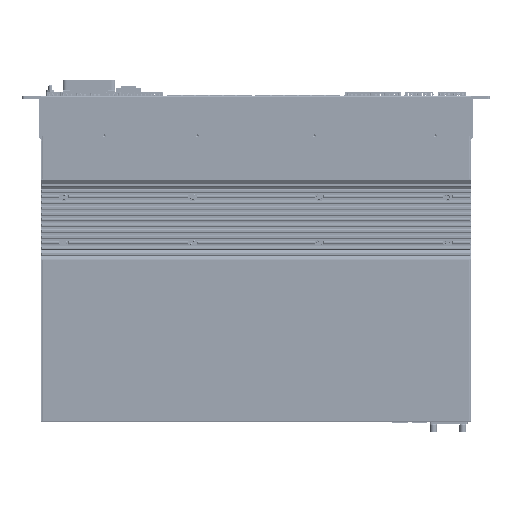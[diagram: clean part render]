
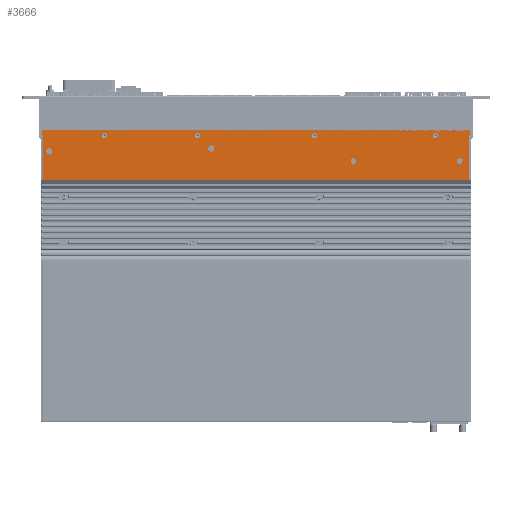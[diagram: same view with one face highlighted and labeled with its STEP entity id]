
A CAD part, front view. The second image highlights one B-rep face of the part: STEP entity #3666.
In plain terms, the highlighted planar face has unit normal (0, -1, 0).
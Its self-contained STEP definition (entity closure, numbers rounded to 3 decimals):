
#386=CARTESIAN_POINT('',(-219.8,-21.9,-84.911));
#387=VERTEX_POINT('',#386);
#395=CARTESIAN_POINT('',(-219.8,-21.9,-84.811));
#396=VERTEX_POINT('',#395);
#397=CARTESIAN_POINT('',(-219.8,-21.9,-84.911));
#398=DIRECTION('',(-0.,-0.,1.));
#399=VECTOR('',#398,0.1);
#400=LINE('',#397,#399);
#401=EDGE_CURVE('',#387,#396,#400,.T.);
#3374=CARTESIAN_POINT('',(219.8,-21.9,-84.811));
#3375=VERTEX_POINT('',#3374);
#3382=CARTESIAN_POINT('',(219.8,-21.9,-84.911));
#3383=VERTEX_POINT('',#3382);
#3384=CARTESIAN_POINT('',(219.8,-21.9,-84.811));
#3385=DIRECTION('',(-0.,-0.,-1.));
#3386=VECTOR('',#3385,0.1);
#3387=LINE('',#3384,#3386);
#3388=EDGE_CURVE('',#3375,#3383,#3387,.T.);
#3409=CARTESIAN_POINT('',(-219.8,-21.9,-84.911));
#3410=DIRECTION('',(1.,0.,-0.));
#3411=VECTOR('',#3410,439.6);
#3412=LINE('',#3409,#3411);
#3413=EDGE_CURVE('',#387,#3383,#3412,.T.);
#3427=CARTESIAN_POINT('',(-218.6,-21.9,-84.811));
#3428=VERTEX_POINT('',#3427);
#3442=CARTESIAN_POINT('',(-219.8,-21.9,-84.811));
#3443=DIRECTION('',(1.,-0.,-0.));
#3444=VECTOR('',#3443,1.2);
#3445=LINE('',#3442,#3444);
#3446=EDGE_CURVE('',#396,#3428,#3445,.T.);
#3451=CARTESIAN_POINT('',(0.,-21.9,0.));
#3452=DIRECTION('',(0.,-1.,0.));
#3453=DIRECTION('',(0.,0.,-1.));
#3454=AXIS2_PLACEMENT_3D('',#3451,#3452,#3453);
#3455=PLANE('',#3454);
#3456=CARTESIAN_POINT('',(-219.8,-21.9,-40.));
#3457=VERTEX_POINT('',#3456);
#3458=CARTESIAN_POINT('',(-219.8,-21.9,-35.1));
#3459=VERTEX_POINT('',#3458);
#3460=CARTESIAN_POINT('',(-219.8,-21.9,-40.));
#3461=DIRECTION('',(-0.,-0.,1.));
#3462=VECTOR('',#3461,4.9);
#3463=LINE('',#3460,#3462);
#3464=EDGE_CURVE('',#3457,#3459,#3463,.T.);
#3465=ORIENTED_EDGE('',*,*,#3464,.F.);
#3466=CARTESIAN_POINT('',(-218.6,-21.9,-40.));
#3467=VERTEX_POINT('',#3466);
#3468=CARTESIAN_POINT('',(-219.8,-21.9,-40.));
#3469=DIRECTION('',(1.,0.,-0.));
#3470=VECTOR('',#3469,1.2);
#3471=LINE('',#3468,#3470);
#3472=EDGE_CURVE('',#3457,#3467,#3471,.T.);
#3473=ORIENTED_EDGE('',*,*,#3472,.T.);
#3474=CARTESIAN_POINT('',(-218.6,-21.9,-40.));
#3475=DIRECTION('',(0.,0.,-1.));
#3476=VECTOR('',#3475,44.811);
#3477=LINE('',#3474,#3476);
#3478=EDGE_CURVE('',#3467,#3428,#3477,.T.);
#3479=ORIENTED_EDGE('',*,*,#3478,.T.);
#3480=ORIENTED_EDGE('',*,*,#3446,.F.);
#3481=ORIENTED_EDGE('',*,*,#401,.F.);
#3482=ORIENTED_EDGE('',*,*,#3413,.T.);
#3483=ORIENTED_EDGE('',*,*,#3388,.F.);
#3484=CARTESIAN_POINT('',(218.6,-21.9,-84.811));
#3485=VERTEX_POINT('',#3484);
#3486=CARTESIAN_POINT('',(219.8,-21.9,-84.811));
#3487=DIRECTION('',(-1.,-0.,0.));
#3488=VECTOR('',#3487,1.2);
#3489=LINE('',#3486,#3488);
#3490=EDGE_CURVE('',#3375,#3485,#3489,.T.);
#3491=ORIENTED_EDGE('',*,*,#3490,.T.);
#3492=CARTESIAN_POINT('',(218.6,-21.9,-40.));
#3493=VERTEX_POINT('',#3492);
#3494=CARTESIAN_POINT('',(218.6,-21.9,-84.811));
#3495=DIRECTION('',(-0.,-0.,1.));
#3496=VECTOR('',#3495,44.811);
#3497=LINE('',#3494,#3496);
#3498=EDGE_CURVE('',#3485,#3493,#3497,.T.);
#3499=ORIENTED_EDGE('',*,*,#3498,.T.);
#3500=CARTESIAN_POINT('',(219.8,-21.9,-40.));
#3501=VERTEX_POINT('',#3500);
#3502=CARTESIAN_POINT('',(219.8,-21.9,-40.));
#3503=DIRECTION('',(-1.,-0.,0.));
#3504=VECTOR('',#3503,1.2);
#3505=LINE('',#3502,#3504);
#3506=EDGE_CURVE('',#3501,#3493,#3505,.T.);
#3507=ORIENTED_EDGE('',*,*,#3506,.F.);
#3508=CARTESIAN_POINT('',(219.8,-21.9,-35.1));
#3509=VERTEX_POINT('',#3508);
#3510=CARTESIAN_POINT('',(219.8,-21.9,-35.1));
#3511=DIRECTION('',(-0.,-0.,-1.));
#3512=VECTOR('',#3511,4.9);
#3513=LINE('',#3510,#3512);
#3514=EDGE_CURVE('',#3509,#3501,#3513,.T.);
#3515=ORIENTED_EDGE('',*,*,#3514,.F.);
#3516=CARTESIAN_POINT('',(218.8,-21.9,-34.1));
#3517=VERTEX_POINT('',#3516);
#3518=CARTESIAN_POINT('',(218.8,-21.9,-35.1));
#3519=DIRECTION('',(-0.,1.,-0.));
#3520=DIRECTION('',(0.,0.,-1.));
#3521=AXIS2_PLACEMENT_3D('',#3518,#3519,#3520);
#3522=CIRCLE('',#3521,1.);
#3523=EDGE_CURVE('',#3517,#3509,#3522,.T.);
#3524=ORIENTED_EDGE('',*,*,#3523,.F.);
#3525=CARTESIAN_POINT('',(-218.8,-21.9,-34.1));
#3526=VERTEX_POINT('',#3525);
#3527=CARTESIAN_POINT('',(218.8,-21.9,-34.1));
#3528=DIRECTION('',(-1.,-0.,0.));
#3529=VECTOR('',#3528,437.6);
#3530=LINE('',#3527,#3529);
#3531=EDGE_CURVE('',#3517,#3526,#3530,.T.);
#3532=ORIENTED_EDGE('',*,*,#3531,.T.);
#3533=CARTESIAN_POINT('',(-218.8,-21.9,-35.1));
#3534=DIRECTION('',(-0.,1.,-0.));
#3535=DIRECTION('',(0.,0.,-1.));
#3536=AXIS2_PLACEMENT_3D('',#3533,#3534,#3535);
#3537=CIRCLE('',#3536,1.);
#3538=EDGE_CURVE('',#3459,#3526,#3537,.T.);
#3539=ORIENTED_EDGE('',*,*,#3538,.F.);
#3540=EDGE_LOOP('',(#3465,#3473,#3479,#3480,#3481,#3482,#3483,#3491,#3499,#3507,#3515,#3524,#3532,#3539));
#3541=FACE_BOUND('',#3540,.T.);
#3542=CARTESIAN_POINT('',(60.,-21.9,-42.75));
#3543=VERTEX_POINT('',#3542);
#3544=CARTESIAN_POINT('',(60.,-21.9,-40.));
#3545=DIRECTION('',(0.,-1.,0.));
#3546=DIRECTION('',(0.,0.,-1.));
#3547=AXIS2_PLACEMENT_3D('',#3544,#3545,#3546);
#3548=CIRCLE('',#3547,2.75);
#3549=EDGE_CURVE('',#3543,#3543,#3548,.T.);
#3550=ORIENTED_EDGE('',*,*,#3549,.F.);
#3551=EDGE_LOOP('',(#3550));
#3552=FACE_BOUND('',#3551,.T.);
#3553=CARTESIAN_POINT('',(-60.,-21.9,-42.75));
#3554=VERTEX_POINT('',#3553);
#3555=CARTESIAN_POINT('',(-60.,-21.9,-40.));
#3556=DIRECTION('',(0.,-1.,0.));
#3557=DIRECTION('',(0.,0.,-1.));
#3558=AXIS2_PLACEMENT_3D('',#3555,#3556,#3557);
#3559=CIRCLE('',#3558,2.75);
#3560=EDGE_CURVE('',#3554,#3554,#3559,.T.);
#3561=ORIENTED_EDGE('',*,*,#3560,.F.);
#3562=EDGE_LOOP('',(#3561));
#3563=FACE_BOUND('',#3562,.T.);
#3564=CARTESIAN_POINT('',(-155.5,-21.9,-42.75));
#3565=VERTEX_POINT('',#3564);
#3566=CARTESIAN_POINT('',(-155.5,-21.9,-40.));
#3567=DIRECTION('',(0.,-1.,0.));
#3568=DIRECTION('',(0.,0.,-1.));
#3569=AXIS2_PLACEMENT_3D('',#3566,#3567,#3568);
#3570=CIRCLE('',#3569,2.75);
#3571=EDGE_CURVE('',#3565,#3565,#3570,.T.);
#3572=ORIENTED_EDGE('',*,*,#3571,.F.);
#3573=EDGE_LOOP('',(#3572));
#3574=FACE_BOUND('',#3573,.T.);
#3575=CARTESIAN_POINT('',(-209.3,-21.9,-56.));
#3576=VERTEX_POINT('',#3575);
#3577=CARTESIAN_POINT('',(-212.,-21.9,-53.3));
#3578=VERTEX_POINT('',#3577);
#3579=CARTESIAN_POINT('',(-212.,-21.9,-56.));
#3580=DIRECTION('',(-0.,-1.,-0.));
#3581=DIRECTION('',(0.,-0.,1.));
#3582=AXIS2_PLACEMENT_3D('',#3579,#3580,#3581);
#3583=CIRCLE('',#3582,2.7);
#3584=EDGE_CURVE('',#3576,#3578,#3583,.T.);
#3585=ORIENTED_EDGE('',*,*,#3584,.F.);
#3586=CARTESIAN_POINT('',(-212.,-21.9,-56.));
#3587=DIRECTION('',(-0.,-1.,-0.));
#3588=DIRECTION('',(0.,-0.,1.));
#3589=AXIS2_PLACEMENT_3D('',#3586,#3587,#3588);
#3590=CIRCLE('',#3589,2.7);
#3591=EDGE_CURVE('',#3578,#3576,#3590,.T.);
#3592=ORIENTED_EDGE('',*,*,#3591,.F.);
#3593=EDGE_LOOP('',(#3585,#3592));
#3594=FACE_BOUND('',#3593,.T.);
#3595=CARTESIAN_POINT('',(211.7,-21.9,-66.));
#3596=VERTEX_POINT('',#3595);
#3597=CARTESIAN_POINT('',(209.,-21.9,-63.3));
#3598=VERTEX_POINT('',#3597);
#3599=CARTESIAN_POINT('',(209.,-21.9,-66.));
#3600=DIRECTION('',(-0.,-1.,-0.));
#3601=DIRECTION('',(0.,-0.,1.));
#3602=AXIS2_PLACEMENT_3D('',#3599,#3600,#3601);
#3603=CIRCLE('',#3602,2.7);
#3604=EDGE_CURVE('',#3596,#3598,#3603,.T.);
#3605=ORIENTED_EDGE('',*,*,#3604,.F.);
#3606=CARTESIAN_POINT('',(209.,-21.9,-66.));
#3607=DIRECTION('',(-0.,-1.,-0.));
#3608=DIRECTION('',(0.,-0.,1.));
#3609=AXIS2_PLACEMENT_3D('',#3606,#3607,#3608);
#3610=CIRCLE('',#3609,2.7);
#3611=EDGE_CURVE('',#3598,#3596,#3610,.T.);
#3612=ORIENTED_EDGE('',*,*,#3611,.F.);
#3613=EDGE_LOOP('',(#3605,#3612));
#3614=FACE_BOUND('',#3613,.T.);
#3615=CARTESIAN_POINT('',(102.7,-21.9,-66.));
#3616=VERTEX_POINT('',#3615);
#3617=CARTESIAN_POINT('',(100.,-21.9,-63.3));
#3618=VERTEX_POINT('',#3617);
#3619=CARTESIAN_POINT('',(100.,-21.9,-66.));
#3620=DIRECTION('',(-0.,-1.,-0.));
#3621=DIRECTION('',(0.,-0.,1.));
#3622=AXIS2_PLACEMENT_3D('',#3619,#3620,#3621);
#3623=CIRCLE('',#3622,2.7);
#3624=EDGE_CURVE('',#3616,#3618,#3623,.T.);
#3625=ORIENTED_EDGE('',*,*,#3624,.F.);
#3626=CARTESIAN_POINT('',(100.,-21.9,-66.));
#3627=DIRECTION('',(-0.,-1.,-0.));
#3628=DIRECTION('',(0.,-0.,1.));
#3629=AXIS2_PLACEMENT_3D('',#3626,#3627,#3628);
#3630=CIRCLE('',#3629,2.7);
#3631=EDGE_CURVE('',#3618,#3616,#3630,.T.);
#3632=ORIENTED_EDGE('',*,*,#3631,.F.);
#3633=EDGE_LOOP('',(#3625,#3632));
#3634=FACE_BOUND('',#3633,.T.);
#3635=CARTESIAN_POINT('',(-43.3,-21.9,-53.));
#3636=VERTEX_POINT('',#3635);
#3637=CARTESIAN_POINT('',(-46.,-21.9,-50.3));
#3638=VERTEX_POINT('',#3637);
#3639=CARTESIAN_POINT('',(-46.,-21.9,-53.));
#3640=DIRECTION('',(-0.,-1.,-0.));
#3641=DIRECTION('',(0.,-0.,1.));
#3642=AXIS2_PLACEMENT_3D('',#3639,#3640,#3641);
#3643=CIRCLE('',#3642,2.7);
#3644=EDGE_CURVE('',#3636,#3638,#3643,.T.);
#3645=ORIENTED_EDGE('',*,*,#3644,.F.);
#3646=CARTESIAN_POINT('',(-46.,-21.9,-53.));
#3647=DIRECTION('',(-0.,-1.,-0.));
#3648=DIRECTION('',(0.,-0.,1.));
#3649=AXIS2_PLACEMENT_3D('',#3646,#3647,#3648);
#3650=CIRCLE('',#3649,2.7);
#3651=EDGE_CURVE('',#3638,#3636,#3650,.T.);
#3652=ORIENTED_EDGE('',*,*,#3651,.F.);
#3653=EDGE_LOOP('',(#3645,#3652));
#3654=FACE_BOUND('',#3653,.T.);
#3655=CARTESIAN_POINT('',(184.,-21.9,-42.75));
#3656=VERTEX_POINT('',#3655);
#3657=CARTESIAN_POINT('',(184.,-21.9,-40.));
#3658=DIRECTION('',(0.,-1.,0.));
#3659=DIRECTION('',(0.,0.,-1.));
#3660=AXIS2_PLACEMENT_3D('',#3657,#3658,#3659);
#3661=CIRCLE('',#3660,2.75);
#3662=EDGE_CURVE('',#3656,#3656,#3661,.T.);
#3663=ORIENTED_EDGE('',*,*,#3662,.F.);
#3664=EDGE_LOOP('',(#3663));
#3665=FACE_BOUND('',#3664,.T.);
#3666=ADVANCED_FACE('',(#3541,#3552,#3563,#3574,#3594,#3614,#3634,#3654,#3665),#3455,.T.);
